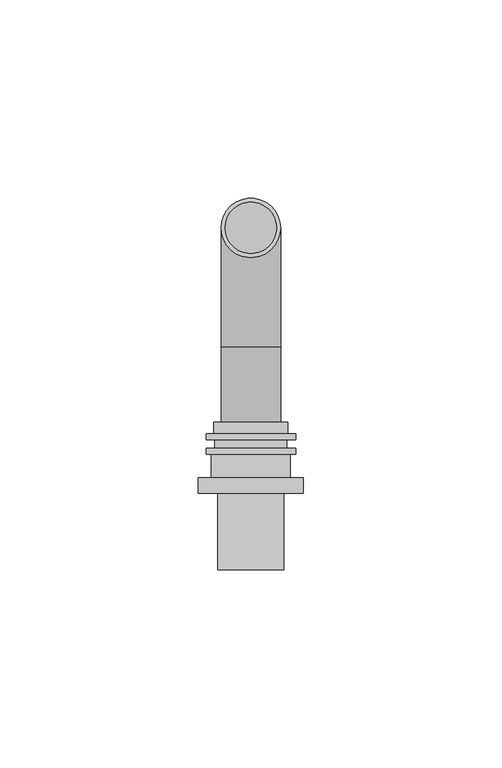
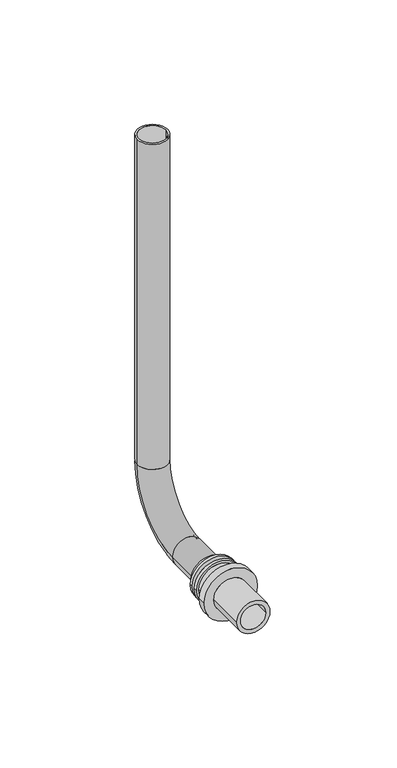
"""IFC4 building model written with IfcOpenShell, lengths in millimetres: pipe fitting geometry, RAUTITAN_Radiator WAG20 : RAUTITAN_Radiator WAG20."""

from ifc_helpers import new_model, si_unit, point, frame, origin, place, context, project, spatial, polyline, circle_curve, ellipse_curve, trimmed, source, transform, mapped, element, save
from ifc_brep_helpers import plane_surface, cylinder_surface, revolved_surface, advanced_brep


def pipe_fitting_81f8a68e(model_context):
    return source(origin(), model_context, "Body", "AdvancedBrep", [
        advanced_brep(
        [(9.3, -52.0, 0.0), (-9.3, -52.0, 0.0), (-9.3, -49.0, 0.0), (9.3, -49.0, 0.0), (11.3, -53.4, 0.0), (-11.3, -53.4, 0.0), (-11.3, -52.0, 0.0), (11.3, -52.0, 0.0), (9.05, -55.6, 0.0), (-9.05, -55.6, 0.0), (-9.05, -53.4, 0.0), (9.05, -53.4, 0.0), (11.3, -57.1, 0.0), (-11.3, -57.1, 0.0), (-11.3, -55.6, 0.0), (11.3, -55.6, 0.0), (8.3, -86.3, 0.0), (-8.3, -86.3, 0.0), (-8.3, -66.9, 0.0), (8.3, -66.9, 0.0), (6.2, -55.0, 0.0), (-6.2, -55.0, 0.0), (-6.2, -86.3, 0.0), (6.2, -86.3, 0.0), (7.5, -49.0, 0.0), (-7.5, -49.0, 0.0), (-7.5, -55.0, 0.0), (7.5, -55.0, 0.0), (-10.0, -57.1, 0.0), (10.0, -57.1, 0.0), (10.0, -63.1, 0.0), (-10.0, -63.1, 0.0), (13.3, -66.9, 0.0), (-13.3, -66.9, 0.0), (-13.3, -63.1, 0.0), (13.3, -63.1, 0.0)],
        [
            (0, 1, circle_curve(frame((0.0, -52.0, 0.0), z_axis=(0.0, 1.0, 0.0), x_axis=(-1.0, 0.0, 0.0)), 9.3)),
            (1, 2),
            (2, 3, circle_curve(frame((0.0, -49.0, 0.0), z_axis=(0.0, -1.0, 0.0), x_axis=(-1.0, 0.0, 0.0)), 9.3)),
            (3, 0),
            (4, 5, circle_curve(frame((0.0, -53.4, 0.0), z_axis=(0.0, 1.0, 0.0), x_axis=(-1.0, 0.0, 0.0)), 11.3)),
            (5, 6),
            (6, 7, circle_curve(frame((0.0, -52.0, 0.0), z_axis=(0.0, -1.0, 0.0), x_axis=(-1.0, 0.0, 0.0)), 11.3)),
            (7, 4),
            (8, 9, circle_curve(frame((0.0, -55.6, 0.0), z_axis=(0.0, 1.0, 0.0), x_axis=(-1.0, 0.0, 0.0)), 9.05)),
            (9, 10),
            (10, 11, circle_curve(frame((0.0, -53.4, 0.0), z_axis=(0.0, -1.0, 0.0), x_axis=(-1.0, 0.0, 0.0)), 9.05)),
            (11, 8),
            (12, 13, circle_curve(frame((0.0, -57.1, 0.0), z_axis=(0.0, 1.0, 0.0), x_axis=(-1.0, 0.0, 0.0)), 11.3)),
            (13, 14),
            (14, 15, circle_curve(frame((0.0, -55.6, 0.0), z_axis=(0.0, -1.0, 0.0), x_axis=(-1.0, 0.0, 0.0)), 11.3)),
            (15, 12),
            (16, 17, circle_curve(frame((0.0, -86.3, 0.0), z_axis=(0.0, 1.0, 0.0), x_axis=(-1.0, 0.0, 0.0)), 8.3)),
            (17, 18),
            (18, 19, circle_curve(frame((0.0, -66.9, 0.0), z_axis=(0.0, -1.0, 0.0), x_axis=(-1.0, 0.0, 0.0)), 8.3)),
            (19, 16),
            (20, 21, circle_curve(frame((0.0, -55.0, 0.0), z_axis=(0.0, 1.0, 0.0), x_axis=(-1.0, 0.0, 0.0)), 6.2)),
            (21, 22),
            (22, 23, circle_curve(frame((0.0, -86.3, 0.0), z_axis=(0.0, -1.0, 0.0), x_axis=(-1.0, 0.0, 0.0)), 6.2)),
            (23, 20),
            (24, 25, circle_curve(frame((0.0, -49.0, 0.0), z_axis=(0.0, 1.0, 0.0), x_axis=(-1.0, 0.0, 0.0)), 7.5)),
            (25, 26),
            (26, 27, circle_curve(frame((0.0, -55.0, 0.0), z_axis=(0.0, -1.0, 0.0), x_axis=(-1.0, 0.0, 0.0)), 7.5)),
            (27, 24),
            (2, 3, circle_curve(frame((0.0, -49.0, 0.0), z_axis=(0.0, 1.0, 0.0), x_axis=(1.0, 0.0, 0.0)), 9.3)),
            (24, 25, circle_curve(frame((0.0, -49.0, 0.0), z_axis=(0.0, -1.0, 0.0), x_axis=(1.0, 0.0, 0.0)), 7.5)),
            (1, 0, circle_curve(frame((0.0, -52.0, 0.0), z_axis=(0.0, 1.0, 0.0), x_axis=(1.0, 0.0, 0.0)), 9.3)),
            (6, 7, circle_curve(frame((0.0, -52.0, 0.0), z_axis=(0.0, 1.0, 0.0), x_axis=(1.0, 0.0, 0.0)), 11.3)),
            (5, 4, circle_curve(frame((0.0, -53.4, 0.0), z_axis=(0.0, 1.0, 0.0), x_axis=(1.0, 0.0, 0.0)), 11.3)),
            (10, 11, circle_curve(frame((0.0, -53.4, 0.0), z_axis=(0.0, 1.0, 0.0), x_axis=(1.0, 0.0, 0.0)), 9.05)),
            (9, 8, circle_curve(frame((0.0, -55.6, 0.0), z_axis=(0.0, 1.0, 0.0), x_axis=(1.0, 0.0, 0.0)), 9.05)),
            (14, 15, circle_curve(frame((0.0, -55.6, 0.0), z_axis=(0.0, 1.0, 0.0), x_axis=(1.0, 0.0, 0.0)), 11.3)),
            (13, 12, circle_curve(frame((0.0, -57.1, 0.0), z_axis=(0.0, 1.0, 0.0), x_axis=(1.0, 0.0, 0.0)), 11.3)),
            (28, 29, circle_curve(frame((0.0, -57.1, 0.0), z_axis=(0.0, 1.0, 0.0), x_axis=(1.0, 0.0, 0.0)), 10.0)),
            (29, 28, circle_curve(frame((0.0, -57.1, 0.0), z_axis=(0.0, 1.0, 0.0), x_axis=(-1.0, 0.0, 0.0)), 10.0)),
            (17, 16, circle_curve(frame((0.0, -86.3, 0.0), z_axis=(0.0, 1.0, 0.0), x_axis=(1.0, 0.0, 0.0)), 8.3)),
            (19, 18, circle_curve(frame((0.0, -66.9, 0.0), z_axis=(0.0, -1.0, 0.0), x_axis=(1.0, 0.0, 0.0)), 8.3)),
            (22, 23, circle_curve(frame((0.0, -86.3, 0.0), z_axis=(0.0, 1.0, 0.0), x_axis=(1.0, 0.0, 0.0)), 6.2)),
            (21, 20, circle_curve(frame((0.0, -55.0, 0.0), z_axis=(0.0, 1.0, 0.0), x_axis=(1.0, 0.0, 0.0)), 6.2)),
            (26, 27, circle_curve(frame((0.0, -55.0, 0.0), z_axis=(0.0, 1.0, 0.0), x_axis=(1.0, 0.0, 0.0)), 7.5)),
            (30, 31, circle_curve(frame((0.0, -63.1, 0.0), z_axis=(0.0, 1.0, 0.0), x_axis=(-1.0, 0.0, 0.0)), 10.0)),
            (31, 28),
            (29, 30),
            (32, 33, circle_curve(frame((0.0, -66.9, 0.0), z_axis=(0.0, 1.0, 0.0), x_axis=(-1.0, 0.0, 0.0)), 13.3)),
            (33, 34),
            (34, 35, circle_curve(frame((0.0, -63.1, 0.0), z_axis=(0.0, -1.0, 0.0), x_axis=(-1.0, 0.0, 0.0)), 13.3)),
            (35, 32),
            (31, 30, circle_curve(frame((0.0, -63.1, 0.0), z_axis=(0.0, 1.0, 0.0), x_axis=(1.0, 0.0, 0.0)), 10.0)),
            (34, 35, circle_curve(frame((0.0, -63.1, 0.0), z_axis=(0.0, 1.0, 0.0), x_axis=(1.0, 0.0, 0.0)), 13.3)),
            (33, 32, circle_curve(frame((0.0, -66.9, 0.0), z_axis=(0.0, 1.0, 0.0), x_axis=(1.0, 0.0, 0.0)), 13.3)),
        ],
        [
            cylinder_surface(frame((0.0, -55.0, 0.0), z_axis=(0.0, -1.0, 0.0), x_axis=(-1.0, 0.0, 0.0)), 9.3),
            cylinder_surface(frame((0.0, -55.0, 0.0), z_axis=(0.0, -1.0, 0.0), x_axis=(-1.0, 0.0, 0.0)), 11.3),
            cylinder_surface(frame((0.0, -55.0, 0.0), z_axis=(0.0, -1.0, 0.0), x_axis=(-1.0, 0.0, 0.0)), 9.05),
            cylinder_surface(frame((0.0, -55.0, 0.0), z_axis=(0.0, -1.0, 0.0), x_axis=(-1.0, 0.0, 0.0)), 8.3),
            revolved_surface(polyline([(-6.2, -86.3, 0.0), (-6.2, -55.0, 0.0)]), (0.0, -55.0, 0.0), (0.0, -1.0, 0.0)),
            revolved_surface(polyline([(-7.5, -55.0, 0.0), (-7.5, -49.0, 0.0)]), (0.0, -55.0, 0.0), (0.0, -1.0, 0.0)),
            plane_surface(frame((0.0, -49.0, 0.0), z_axis=(0.0, 1.0, 0.0), x_axis=(1.0, 0.0, 0.0))),
            cylinder_surface(frame((0.0, -55.0, 0.0), z_axis=(0.0, -1.0, 0.0), x_axis=(1.0, 0.0, 0.0)), 9.3),
            plane_surface(frame((0.0, -52.0, 0.0), z_axis=(0.0, 1.0, 0.0), x_axis=(1.0, 0.0, 0.0))),
            cylinder_surface(frame((0.0, -55.0, 0.0), z_axis=(0.0, -1.0, 0.0), x_axis=(1.0, 0.0, 0.0)), 11.3),
            plane_surface(frame((0.0, -53.4, 0.0), z_axis=(0.0, -1.0, 0.0), x_axis=(1.0, 0.0, 0.0))),
            cylinder_surface(frame((0.0, -55.0, 0.0), z_axis=(0.0, -1.0, 0.0), x_axis=(1.0, 0.0, 0.0)), 9.05),
            plane_surface(frame((0.0, -55.6, 0.0), z_axis=(0.0, 1.0, 0.0), x_axis=(1.0, 0.0, 0.0))),
            plane_surface(frame((0.0, -57.1, 0.0), z_axis=(0.0, -1.0, 0.0), x_axis=(1.0, 0.0, 0.0))),
            cylinder_surface(frame((0.0, -55.0, 0.0), z_axis=(0.0, -1.0, 0.0), x_axis=(1.0, 0.0, 0.0)), 8.3),
            plane_surface(frame((0.0, -86.3, 0.0), z_axis=(0.0, -1.0, 0.0), x_axis=(1.0, 0.0, 0.0))),
            revolved_surface(polyline([(6.2, -86.3, 0.0), (6.2, -55.0, 0.0)]), (0.0, -55.0, 0.0), (0.0, -1.0, 0.0)),
            plane_surface(frame((0.0, -55.0, 0.0), z_axis=(0.0, 1.0, 0.0), x_axis=(1.0, 0.0, 0.0))),
            revolved_surface(polyline([(7.5, -55.0, 0.0), (7.5, -49.0, 0.0)]), (0.0, -55.0, 0.0), (0.0, -1.0, 0.0)),
            cylinder_surface(frame((0.0, -55.0, 0.0), z_axis=(0.0, -1.0, 0.0), x_axis=(-1.0, 0.0, 0.0)), 10.0),
            cylinder_surface(frame((0.0, -55.0, 0.0), z_axis=(0.0, -1.0, 0.0), x_axis=(-1.0, 0.0, 0.0)), 13.3),
            cylinder_surface(frame((0.0, -55.0, 0.0), z_axis=(0.0, -1.0, 0.0), x_axis=(1.0, 0.0, 0.0)), 10.0),
            plane_surface(frame((0.0, -63.1, 0.0), z_axis=(0.0, 1.0, 0.0), x_axis=(1.0, 0.0, 0.0))),
            cylinder_surface(frame((0.0, -55.0, 0.0), z_axis=(0.0, -1.0, 0.0), x_axis=(1.0, 0.0, 0.0)), 13.3),
            plane_surface(frame((0.0, -66.9, 0.0), z_axis=(0.0, -1.0, 0.0), x_axis=(1.0, 0.0, 0.0))),
        ],
        [
            (0, [[1, 2, 3, 4]]),
            (1, [[5, 6, 7, 8]]),
            (2, [[9, 10, 11, 12]]),
            (1, [[13, 14, 15, 16]]),
            (3, [[17, 18, 19, 20]]),
            (4, [[21, 22, 23, 24]]),
            (5, [[25, 26, 27, 28]]),
            (6, [[29, -3], [30, -25]]),
            (7, [[31, -4, -29, -2]]),
            (8, [[32, -7], [-31, -1]]),
            (9, [[33, -8, -32, -6]]),
            (10, [[-33, -5], [34, -11]]),
            (11, [[35, -12, -34, -10]]),
            (12, [[36, -15], [-35, -9]]),
            (9, [[37, -16, -36, -14]]),
            (13, [[-37, -13], [38, 39]]),
            (14, [[40, -20, 41, -18]]),
            (15, [[-40, -17], [42, -23]]),
            (16, [[43, -24, -42, -22]]),
            (17, [[44, -27], [-43, -21]]),
            (18, [[-30, -28, -44, -26]]),
            (19, [[45, 46, -39, 47]]),
            (20, [[48, 49, 50, 51]]),
            (21, [[52, -47, -38, -46]]),
            (22, [[53, -50], [-52, -45]]),
            (23, [[54, -51, -53, -49]]),
            (24, [[-54, -48], [-41, -19]]),
        ],
    ),
        advanced_brep(
        [(-7.5, 0.0, 200.0), (7.5, 0.0, 200.0), (-6.5, 0.0, 200.0), (6.5, 0.0, 200.0), (-7.5, 0.0, 30.0), (7.5, 0.0, 30.0), (-6.5, 0.0, 30.0), (6.5, 0.0, 30.0), (7.5, -30.0, 0.0), (-7.5, -30.0, 0.0), (6.5, -30.0, 0.0), (-6.5, -30.0, 0.0), (-7.5, -55.0, 0.0), (7.5, -55.0, 0.0), (-6.5, -55.0, 0.0), (6.5, -55.0, 0.0)],
        [
            (0, 1, circle_curve(frame((0.0, 0.0, 200.0), z_axis=(0.0, 0.0, 1.0), x_axis=(1.0, 0.0, 0.0)), 7.5)),
            (1, 0, circle_curve(frame((0.0, 0.0, 200.0), z_axis=(0.0, 0.0, 1.0), x_axis=(1.0, 0.0, 0.0)), 7.5)),
            (2, 3, circle_curve(frame((0.0, 0.0, 200.0), z_axis=(0.0, 0.0, -1.0), x_axis=(1.0, 0.0, 0.0)), 6.5)),
            (3, 2, circle_curve(frame((0.0, 0.0, 200.0), z_axis=(0.0, 0.0, -1.0), x_axis=(1.0, 0.0, 0.0)), 6.5)),
            (0, 4),
            (4, 5, circle_curve(frame((0.0, 0.0, 30.0), z_axis=(0.0, 0.0, 1.0), x_axis=(1.0, 0.0, 0.0)), 7.5)),
            (5, 1),
            (5, 4, circle_curve(frame((0.0, 0.0, 30.0), z_axis=(0.0, 0.0, 1.0), x_axis=(1.0, 0.0, 0.0)), 7.5)),
            (2, 6),
            (6, 7, circle_curve(frame((0.0, 0.0, 30.0), z_axis=(0.0, 0.0, -1.0), x_axis=(1.0, 0.0, 0.0)), 6.5)),
            (7, 3),
            (7, 6, circle_curve(frame((0.0, 0.0, 30.0), z_axis=(0.0, 0.0, -1.0), x_axis=(1.0, 0.0, 0.0)), 6.5)),
            (8, 5, circle_curve(frame((7.5, -30.0, 30.0), z_axis=(1.0, 0.0, 0.0), x_axis=(0.0, 1.0, 0.0)), 30.0)),
            (4, 9, circle_curve(frame((-7.5, -30.0, 30.0), z_axis=(-1.0, 0.0, 0.0), x_axis=(0.0, 1.0, 0.0)), 30.0)),
            (9, 8, circle_curve(frame((0.0, -30.0, 0.0), z_axis=(0.0, 1.0, 0.0), x_axis=(1.0, 0.0, 0.0)), 7.5)),
            (8, 9, circle_curve(frame((0.0, -30.0, 0.0), z_axis=(0.0, 1.0, 0.0), x_axis=(1.0, 0.0, 0.0)), 7.5)),
            (10, 7, circle_curve(frame((6.5, -30.0, 30.0), z_axis=(1.0, 0.0, 0.0), x_axis=(0.0, 1.0, 0.0)), 30.0)),
            (6, 11, circle_curve(frame((-6.5, -30.0, 30.0), z_axis=(-1.0, 0.0, 0.0), x_axis=(0.0, 1.0, 0.0)), 30.0)),
            (11, 10, circle_curve(frame((0.0, -30.0, 0.0), z_axis=(0.0, -1.0, 0.0), x_axis=(1.0, 0.0, 0.0)), 6.5)),
            (10, 11, circle_curve(frame((0.0, -30.0, 0.0), z_axis=(0.0, -1.0, 0.0), x_axis=(1.0, 0.0, 0.0)), 6.5)),
            (12, 13, circle_curve(frame((0.0, -55.0, 0.0), z_axis=(0.0, -1.0, 0.0), x_axis=(1.0, 0.0, 0.0)), 7.5)),
            (13, 12, circle_curve(frame((0.0, -55.0, 0.0), z_axis=(0.0, -1.0, 0.0), x_axis=(1.0, 0.0, 0.0)), 7.5)),
            (14, 15, circle_curve(frame((0.0, -55.0, 0.0), z_axis=(0.0, 1.0, 0.0), x_axis=(1.0, 0.0, 0.0)), 6.5)),
            (15, 14, circle_curve(frame((0.0, -55.0, 0.0), z_axis=(0.0, 1.0, 0.0), x_axis=(1.0, 0.0, 0.0)), 6.5)),
            (9, 12),
            (13, 8),
            (11, 14),
            (15, 10),
        ],
        [
            plane_surface(frame((0.0, 0.0, 200.0), z_axis=(0.0, 0.0, 1.0), x_axis=(1.0, 0.0, 0.0))),
            cylinder_surface(frame((0.0, 0.0, 200.0), z_axis=(0.0, 0.0, 1.0), x_axis=(1.0, 0.0, 0.0)), 7.5),
            revolved_surface(polyline([(6.5, 0.0, 30.0), (6.5, 0.0, 200.0)]), (0.0, 0.0, 200.0), (0.0, 0.0, -1.0)),
            revolved_surface(trimmed(ellipse_curve(frame((0.0, 0.0, 30.0), z_axis=(0.0, 0.0, 1.0), x_axis=(1.0, 0.0, 0.0)), 7.5, 7.5), [point((-7.5, 0.0, 30.0))], [point((7.5, 0.0, 30.0))], True, "CARTESIAN"), (0.0, -30.0, 30.0), (-1.0, 0.0, 0.0)),
            revolved_surface(trimmed(ellipse_curve(frame((0.0, 0.0, 30.0), z_axis=(0.0, 0.0, 1.0), x_axis=(1.0, 0.0, 0.0)), 7.5, 7.5), [point((7.5, 0.0, 30.0))], [point((-7.5, 0.0, 30.0))], True, "CARTESIAN"), (0.0, -30.0, 30.0), (-1.0, 0.0, 0.0)),
            revolved_surface(trimmed(ellipse_curve(frame((0.0, 0.0, 30.0), z_axis=(0.0, 0.0, -1.0), x_axis=(1.0, 0.0, 0.0)), 6.5, 6.5), [point((-6.5, 0.0, 30.0))], [point((6.5, 0.0, 30.0))], True, "CARTESIAN"), (0.0, -30.0, 30.0), (-1.0, 0.0, 0.0)),
            revolved_surface(trimmed(ellipse_curve(frame((0.0, 0.0, 30.0), z_axis=(0.0, 0.0, -1.0), x_axis=(1.0, 0.0, 0.0)), 6.5, 6.5), [point((6.5, 0.0, 30.0))], [point((-6.5, 0.0, 30.0))], True, "CARTESIAN"), (0.0, -30.0, 30.0), (-1.0, 0.0, 0.0)),
            plane_surface(frame((0.0, -55.0, 0.0), z_axis=(0.0, -1.0, 0.0), x_axis=(1.0, 0.0, 0.0))),
            cylinder_surface(frame((0.0, -30.0, 0.0), z_axis=(0.0, 1.0, 0.0), x_axis=(1.0, 0.0, 0.0)), 7.5),
            revolved_surface(polyline([(6.5, -55.0, 0.0), (6.5, -30.0, 0.0)]), (0.0, -30.0, 0.0), (0.0, -1.0, 0.0)),
        ],
        [
            (0, [[1, 2], [3, 4]]),
            (1, [[-1, 5, 6, 7]]),
            (1, [[-2, -7, 8, -5]]),
            (2, [[-3, 9, 10, 11]]),
            (2, [[-4, -11, 12, -9]]),
            (3, [[13, -6, 14, 15]]),
            (4, [[-14, -8, -13, 16]]),
            (5, [[17, -10, 18, 19]]),
            (6, [[-18, -12, -17, 20]]),
            (7, [[21, 22], [23, 24]]),
            (8, [[-15, 25, -22, 26]]),
            (8, [[-16, -26, -21, -25]]),
            (9, [[-19, 27, -24, 28]]),
            (9, [[-20, -28, -23, -27]]),
        ],
    ),
    ])


if __name__ == "__main__":
    model = new_model("IFC4")
    model_context = context("Model", 3, world=origin())
    ifc_project = project(units=[si_unit("LENGTHUNIT", "METRE", prefix="MILLI")], contexts=[model_context])
    site = spatial("IfcSite", under=ifc_project)
    building = spatial("IfcBuilding", under=site)
    placement = place(None, origin())
    pipe_fitting_shape = pipe_fitting_81f8a68e(model_context)
    element("IfcPipeFitting", 1, ObjectType="RAUTITAN_Radiator WAG20 : RAUTITAN_Radiator WAG20", at=placement, inside=building, context=model_context, shape_type="MappedRepresentation", body=[
        mapped(pipe_fitting_shape, transform((0.0, 0.0, 0.0), x_axis=(1.0, 0.0, 0.0), y_axis=(0.0, 1.0, 0.0), z_axis=(0.0, 0.0, 1.0))),
    ])
    save(model, "model.ifc")
